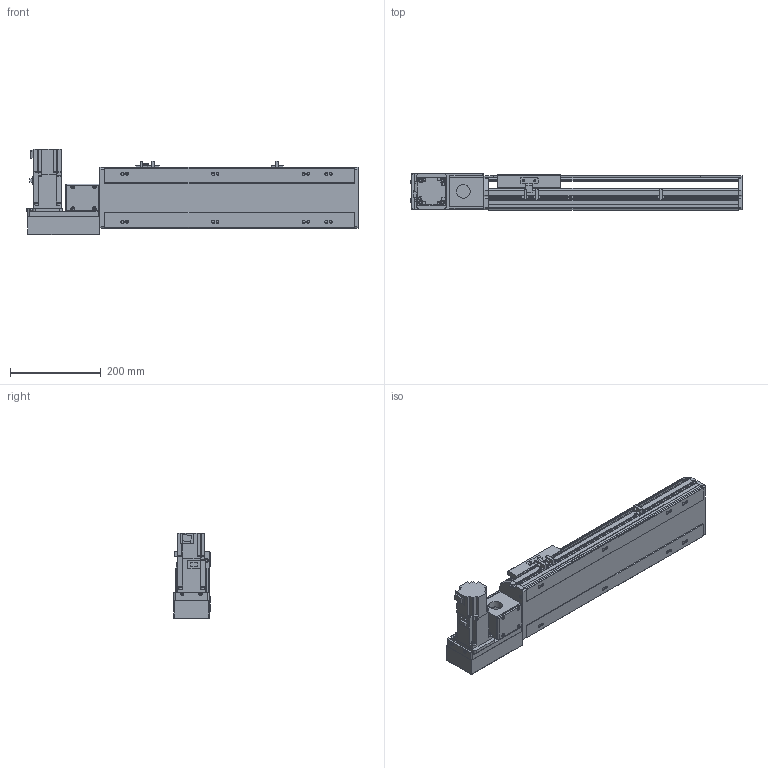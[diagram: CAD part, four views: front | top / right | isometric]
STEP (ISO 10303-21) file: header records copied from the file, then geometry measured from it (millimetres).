
FILE_DESCRIPTION(/* description */ ('STEP AP214'),/* implementation_level */ '2;1');
FILE_NAME(/* name */ 'PBS140-P40-S300-L-T40-C1-N(0)',/* time_stamp */ '2022-06-06T02:59:53+02:00',/* author */ ('License CC BY-ND 4.0'),/* organization */ ('CADENAS'),/* preprocessor_version */ 'ST-DEVELOPER v18.102',/* originating_system */ 'PARTsolutions',/* authorisation */ ' ');
FILE_SCHEMA (('AUTOMOTIVE_DESIGN {1 0 10303 214 3 1 1}'));
Length unit declared in the file: millimetre
Products named in the file (7): PBS140-P40-S300-L-T40-C1-N(0); PBS140_sensor; PBS140_plant; PBS140_sliser; T40-p1; PBS140T-L_motors; PBS140-S300()_body
Assembly tree (8 placements, depth 2):
  PBS140-P40-S300-L-T40-C1-N(0)
    PBS140_sensor  x3
    PBS140_plant
    PBS140_sliser
    T40-p1
    PBS140T-L_motors
    PBS140-S300()_body
Bounding box: 733 x 80.5 x 189.7 mm (x, y, z)
Volume: 3577173.9 mm3; surface area: 654832.7 mm2
Topology: 8 solids, 8 shells, 1011 faces, 2676 edges, 1749 vertices
Faces by surface type: plane 668, cylinder 299, cone 34, sphere 8, torus 2
Full cylindrical faces by diameter (mm): 3.242 x4, 4 x2, 4.134 x4, 4.4 x8, 4.5 x2, 4.8 x4, 4.917 x16, 5.5 x7, 6 x2, 7 x10, 7.5 x8, 8 x12, 8.5 x4, 10.5 x8, 14 x1, 30 x2, 50 x2
Entity records: 28813 total; most frequent: CARTESIAN_POINT 5217, DIRECTION 4917, ORIENTED_EDGE 4672, EDGE_CURVE 2336, AXIS2_PLACEMENT_3D 1687, VERTEX_POINT 1605, LINE 1543, VECTOR 1543
